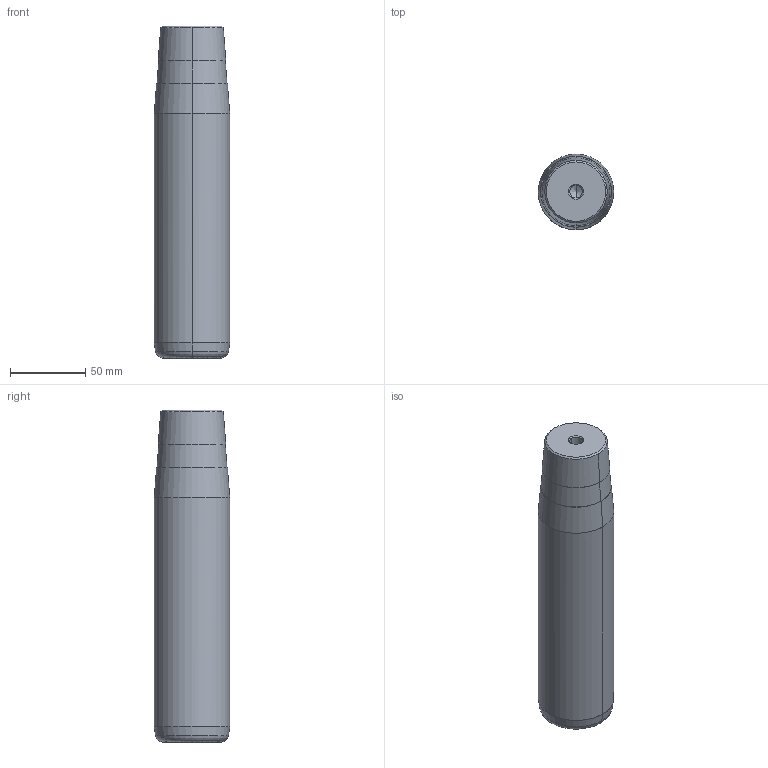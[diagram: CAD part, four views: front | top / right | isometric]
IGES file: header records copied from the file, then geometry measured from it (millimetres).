
Start section: START RECORD GO HERE.
Global section: file name: 722-50x180x220.igs; native system: DASSAULT SYSTEMES CATIA V5 R20 - www.3ds.com; preprocessor: CATIA Version 5 Release 20 ; author: Utente; organization: NB04-ASUS; date: 20210108.155632; units: millimetre
Bounding box: 50 x 50 x 220 mm (x, y, z)
Surface area: 37956.4 mm2 (no closed solid volume)
Topology: 0 solids, 0 shells, 32 faces, 192 edges, 188 vertices
Faces by surface type: revolution 30, plane 2
